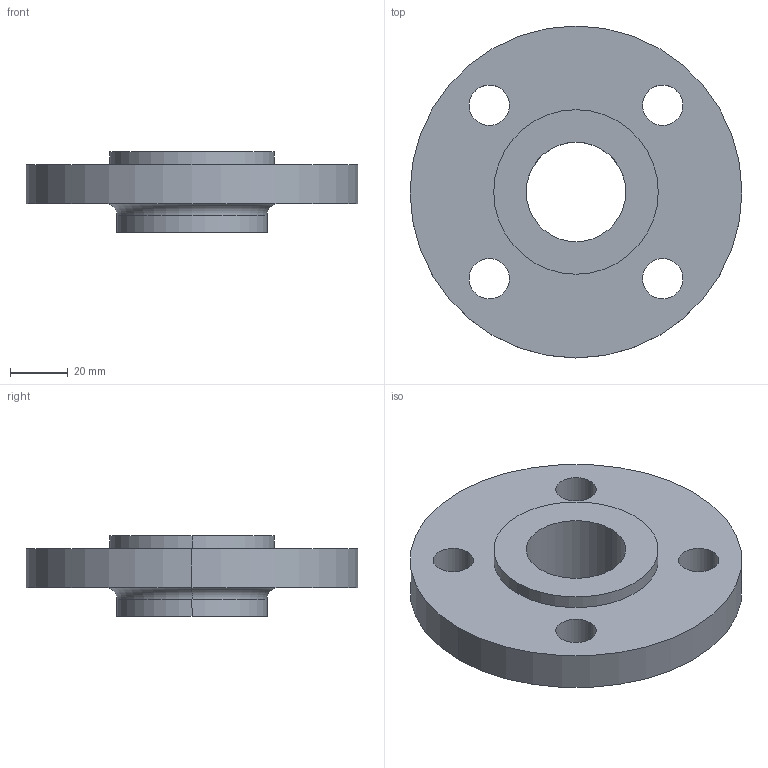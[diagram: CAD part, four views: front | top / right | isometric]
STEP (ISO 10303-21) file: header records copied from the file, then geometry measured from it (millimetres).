
FILE_DESCRIPTION (( 'STEP AP214' ), '1' );
FILE_NAME ('PN40 DN25 Type 12 - Type E Face.STEP', '2018-12-29T20:28:42', ( '' ), ( '' ), 'SwSTEP 2.0', 'SolidWorks 2019', '' );
FILE_SCHEMA (( 'AUTOMOTIVE_DESIGN' ));
Length unit declared in the file: millimetre
Products named in the file (1): PN40 DN25 Type 12 - Type E Face
Bounding box: 115 x 115 x 28 mm (x, y, z)
Volume: 139035.7 mm3; surface area: 30125.9 mm2
Topology: 1 solids, 1 shells, 22 faces, 52 edges, 34 vertices
Faces by surface type: cylinder 16, plane 4, torus 2
Entity records: 710 total; most frequent: DIRECTION 134, CARTESIAN_POINT 109, ORIENTED_EDGE 104, AXIS2_PLACEMENT_3D 59, EDGE_CURVE 52, CIRCLE 36, VERTEX_POINT 34, EDGE_LOOP 34
